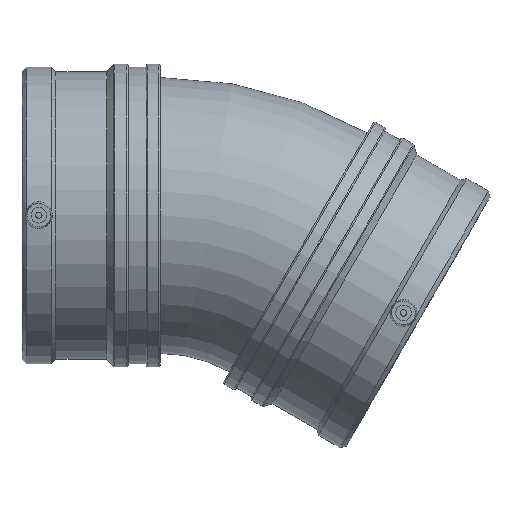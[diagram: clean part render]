
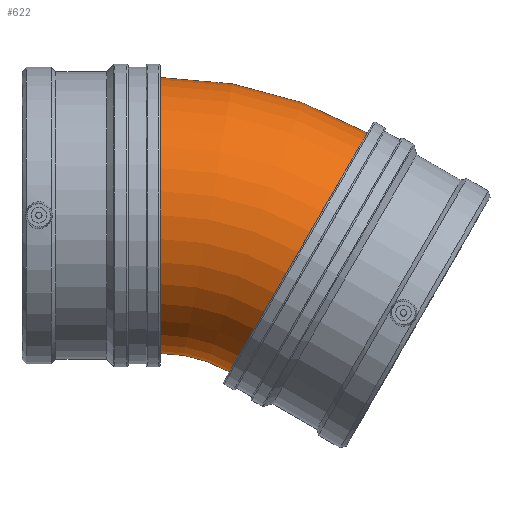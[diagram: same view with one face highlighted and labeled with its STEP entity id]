
A CAD part, top view. The second image highlights one B-rep face of the part: STEP entity #622.
In plain terms, the highlighted toroidal (fillet/blend) face has major radius 176.263 mm and minor radius 88 mm.
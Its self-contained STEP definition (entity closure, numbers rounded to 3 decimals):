
#28=TOROIDAL_SURFACE('',#686,176.263,88.);
#74=FACE_BOUND('',#190,.T.);
#126=FACE_OUTER_BOUND('',#189,.T.);
#189=EDGE_LOOP('',(#477));
#190=EDGE_LOOP('',(#478));
#293=CIRCLE('',#687,88.);
#294=CIRCLE('',#688,88.);
#347=VERTEX_POINT('',#1286);
#348=VERTEX_POINT('',#1288);
#407=EDGE_CURVE('',#347,#347,#293,.T.);
#408=EDGE_CURVE('',#348,#348,#294,.T.);
#477=ORIENTED_EDGE('',*,*,#407,.F.);
#478=ORIENTED_EDGE('',*,*,#408,.F.);
#622=ADVANCED_FACE('',(#126,#74),#28,.T.);
#686=AXIS2_PLACEMENT_3D('',#1285,#807,#808);
#687=AXIS2_PLACEMENT_3D('',#1287,#809,#810);
#688=AXIS2_PLACEMENT_3D('',#1289,#811,#812);
#807=DIRECTION('center_axis',(0.,0.,-1.));
#808=DIRECTION('ref_axis',(-1.,0.,0.));
#809=DIRECTION('center_axis',(0.866,-0.5,0.));
#810=DIRECTION('ref_axis',(0.5,0.866,0.));
#811=DIRECTION('center_axis',(-1.,0.,0.));
#812=DIRECTION('ref_axis',(0.,1.,0.));
#1285=CARTESIAN_POINT('Origin',(-47.23,-176.263,0.));
#1286=CARTESIAN_POINT('',(-3.098,-99.825,0.));
#1287=CARTESIAN_POINT('Origin',(40.902,-23.615,0.));
#1288=CARTESIAN_POINT('',(-47.23,0.,-88.));
#1289=CARTESIAN_POINT('Origin',(-47.23,0.,0.));
